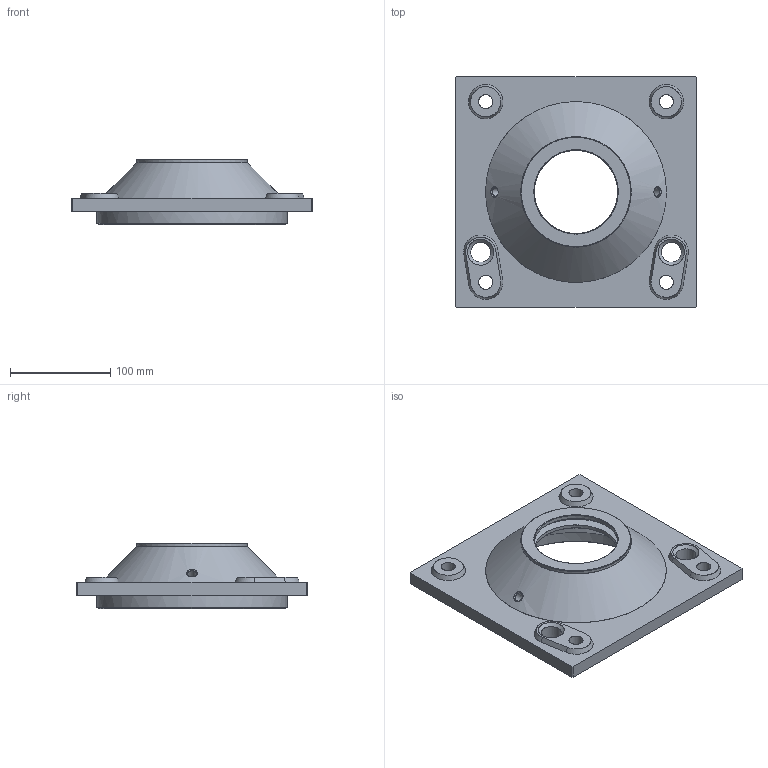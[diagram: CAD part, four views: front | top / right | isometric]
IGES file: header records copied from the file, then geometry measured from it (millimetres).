
Start section: VISI-Series Layer Mapping Iges    VISI-Series  0      LAYER0  1      LAYER1  2      WARNINGS
Global section: file name: C:\Documents and Settings\oem\Desktop\107.igs; native system: VISI-Series Rel. 12.1; preprocessor: 2.0; author: oem; organization: Unknown; date: 20141104.145853; units: millimetre
Bounding box: 240 x 230 x 65 mm (x, y, z)
Surface area: 153492.8 mm2 (no closed solid volume)
Topology: 0 solids, 0 shells, 54 faces, 1084 edges, 1061 vertices
Faces by surface type: bspline 54
